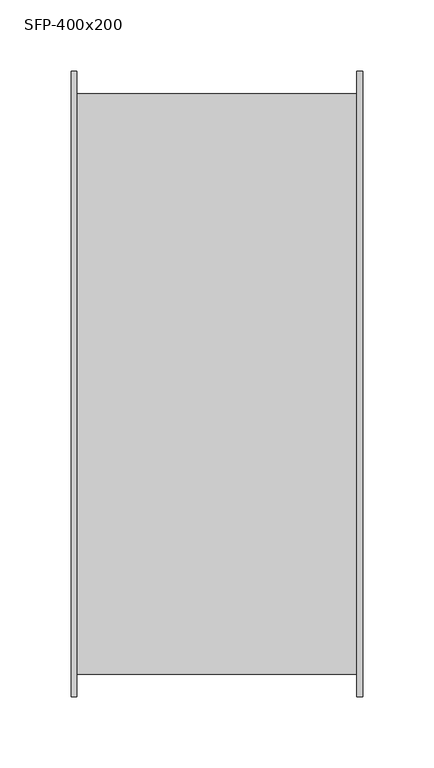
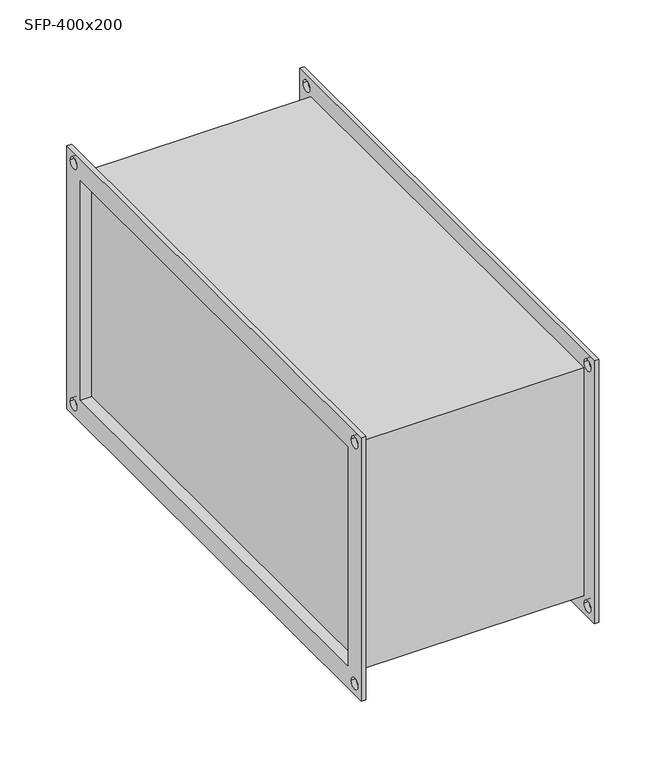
"""IFC4 building model written with IfcOpenShell, lengths in millimetres: damper geometry, СВ_ФильтрКассетный_КанальныйПрямоугольный_200-1000_SFP : SFP-400x200."""

from ifc_helpers import new_model, si_unit, frame, origin, place, context, project, spatial, polyline, circle_curve, outline, extrude, source, transform, mapped, element, save
from ifc_brep_helpers import plane_surface, revolved_surface, advanced_brep


def sfp_400x200_9fdaacf7(model_context):
    return source(origin(), model_context, "Body", "SolidModel", [
        extrude(outline(polyline([(92.5, 200.0), (92.5, -200.0), (-92.5, -200.0), (-92.5, 200.0), (92.5, 200.0)])), frame((0.0, 0.0, -100.0), z_axis=(0.0, 0.0, 1.0), x_axis=(1.0, 0.0, 0.0)), (0.0, 0.0, 1.0), 200.0),
        advanced_brep(
        [(98.5, -204.0, 104.0), (-98.5, -204.0, 104.0), (-98.5, -204.0, -104.0), (98.5, -204.0, -104.0), (-98.5, 204.0, -104.0), (98.5, 204.0, -104.0), (-98.5, 204.0, 104.0), (98.5, 204.0, 104.0), (-102.5, -220.0, 120.0), (-102.5, 220.0, 120.0), (-102.5, 220.0, -120.0), (-102.5, -220.0, -120.0), (-102.5, -200.0, 100.0), (-102.5, -200.0, -100.0), (-102.5, 200.0, -100.0), (-102.5, 200.0, 100.0), (-102.5, 205.0, 110.0), (-102.5, 215.0, 110.0), (-102.5, -215.0, 110.0), (-102.5, -205.0, 110.0), (-102.5, -215.0, -110.0), (-102.5, -205.0, -110.0), (-102.5, 205.0, -110.0), (-102.5, 215.0, -110.0), (-98.5, -220.0, 120.0), (-98.5, -220.0, -120.0), (-98.5, 220.0, -120.0), (-98.5, 220.0, 120.0), (-98.5, 215.0, 110.0), (-98.5, 205.0, 110.0), (-98.5, -205.0, 110.0), (-98.5, -215.0, 110.0), (-98.5, -205.0, -110.0), (-98.5, -215.0, -110.0), (-98.5, 215.0, -110.0), (-98.5, 205.0, -110.0), (98.5, 220.0, 120.0), (98.5, 220.0, -120.0), (98.5, -220.0, -120.0), (98.5, -220.0, 120.0), (98.5, 205.0, 110.0), (98.5, 215.0, 110.0), (98.5, -215.0, 110.0), (98.5, -205.0, 110.0), (98.5, -215.0, -110.0), (98.5, -205.0, -110.0), (98.5, 205.0, -110.0), (98.5, 215.0, -110.0), (102.5, 220.0, 120.0), (102.5, -220.0, 120.0), (102.5, -220.0, -120.0), (102.5, 220.0, -120.0), (102.5, 200.0, 100.0), (102.5, 200.0, -100.0), (102.5, -200.0, -100.0), (102.5, -200.0, 100.0), (102.5, 215.0, 110.0), (102.5, 205.0, 110.0), (102.5, -205.0, 110.0), (102.5, -215.0, 110.0), (102.5, -205.0, -110.0), (102.5, -215.0, -110.0), (102.5, 215.0, -110.0), (102.5, 205.0, -110.0)],
        [
            (0, 1),
            (1, 2),
            (2, 3),
            (3, 0),
            (2, 4),
            (4, 5),
            (5, 3),
            (4, 6),
            (6, 7),
            (7, 5),
            (0, 7),
            (6, 1),
            (8, 9),
            (9, 10),
            (10, 11),
            (11, 8),
            (12, 13),
            (13, 14),
            (14, 15),
            (15, 12),
            (16, 17, circle_curve(frame((-102.5, 210.0, 110.0), z_axis=(1.0, 0.0, 0.0), x_axis=(0.0, 1.0, 0.0)), 5.0)),
            (17, 16, circle_curve(frame((-102.5, 210.0, 110.0), z_axis=(1.0, 0.0, 0.0), x_axis=(0.0, 1.0, 0.0)), 5.0)),
            (18, 19, circle_curve(frame((-102.5, -210.0, 110.0), z_axis=(1.0, 0.0, 0.0), x_axis=(0.0, 1.0, 0.0)), 5.0)),
            (19, 18, circle_curve(frame((-102.5, -210.0, 110.0), z_axis=(1.0, 0.0, 0.0), x_axis=(0.0, 1.0, 0.0)), 5.0)),
            (20, 21, circle_curve(frame((-102.5, -210.0, -110.0), z_axis=(1.0, 0.0, 0.0), x_axis=(0.0, 1.0, 0.0)), 5.0)),
            (21, 20, circle_curve(frame((-102.5, -210.0, -110.0), z_axis=(1.0, 0.0, 0.0), x_axis=(0.0, 1.0, 0.0)), 5.0)),
            (22, 23, circle_curve(frame((-102.5, 210.0, -110.0), z_axis=(1.0, 0.0, 0.0), x_axis=(0.0, 1.0, 0.0)), 5.0)),
            (23, 22, circle_curve(frame((-102.5, 210.0, -110.0), z_axis=(1.0, 0.0, 0.0), x_axis=(0.0, 1.0, 0.0)), 5.0)),
            (24, 25),
            (25, 26),
            (26, 27),
            (27, 24),
            (28, 29, circle_curve(frame((-98.5, 210.0, 110.0), z_axis=(-1.0, 0.0, 0.0), x_axis=(0.0, 1.0, 0.0)), 5.0)),
            (29, 28, circle_curve(frame((-98.5, 210.0, 110.0), z_axis=(-1.0, 0.0, 0.0), x_axis=(0.0, 1.0, 0.0)), 5.0)),
            (30, 31, circle_curve(frame((-98.5, -210.0, 110.0), z_axis=(-1.0, 0.0, 0.0), x_axis=(0.0, 1.0, 0.0)), 5.0)),
            (31, 30, circle_curve(frame((-98.5, -210.0, 110.0), z_axis=(-1.0, 0.0, 0.0), x_axis=(0.0, 1.0, 0.0)), 5.0)),
            (32, 33, circle_curve(frame((-98.5, -210.0, -110.0), z_axis=(-1.0, 0.0, 0.0), x_axis=(0.0, 1.0, 0.0)), 5.0)),
            (33, 32, circle_curve(frame((-98.5, -210.0, -110.0), z_axis=(-1.0, 0.0, 0.0), x_axis=(0.0, 1.0, 0.0)), 5.0)),
            (34, 35, circle_curve(frame((-98.5, 210.0, -110.0), z_axis=(-1.0, 0.0, 0.0), x_axis=(0.0, 1.0, 0.0)), 5.0)),
            (35, 34, circle_curve(frame((-98.5, 210.0, -110.0), z_axis=(-1.0, 0.0, 0.0), x_axis=(0.0, 1.0, 0.0)), 5.0)),
            (11, 25),
            (24, 8),
            (10, 26),
            (9, 27),
            (36, 37),
            (37, 38),
            (38, 39),
            (39, 36),
            (40, 41, circle_curve(frame((98.5, 210.0, 110.0), z_axis=(1.0, 0.0, 0.0), x_axis=(0.0, 1.0, 0.0)), 5.0)),
            (41, 40, circle_curve(frame((98.5, 210.0, 110.0), z_axis=(1.0, 0.0, 0.0), x_axis=(0.0, 1.0, 0.0)), 5.0)),
            (42, 43, circle_curve(frame((98.5, -210.0, 110.0), z_axis=(1.0, 0.0, 0.0), x_axis=(0.0, 1.0, 0.0)), 5.0)),
            (43, 42, circle_curve(frame((98.5, -210.0, 110.0), z_axis=(1.0, 0.0, 0.0), x_axis=(0.0, 1.0, 0.0)), 5.0)),
            (44, 45, circle_curve(frame((98.5, -210.0, -110.0), z_axis=(1.0, 0.0, 0.0), x_axis=(0.0, 1.0, 0.0)), 5.0)),
            (45, 44, circle_curve(frame((98.5, -210.0, -110.0), z_axis=(1.0, 0.0, 0.0), x_axis=(0.0, 1.0, 0.0)), 5.0)),
            (46, 47, circle_curve(frame((98.5, 210.0, -110.0), z_axis=(1.0, 0.0, 0.0), x_axis=(0.0, 1.0, 0.0)), 5.0)),
            (47, 46, circle_curve(frame((98.5, 210.0, -110.0), z_axis=(1.0, 0.0, 0.0), x_axis=(0.0, 1.0, 0.0)), 5.0)),
            (48, 49),
            (49, 50),
            (50, 51),
            (51, 48),
            (52, 53),
            (53, 54),
            (54, 55),
            (55, 52),
            (56, 57, circle_curve(frame((102.5, 210.0, 110.0), z_axis=(-1.0, 0.0, 0.0), x_axis=(0.0, 1.0, 0.0)), 5.0)),
            (57, 56, circle_curve(frame((102.5, 210.0, 110.0), z_axis=(-1.0, 0.0, 0.0), x_axis=(0.0, 1.0, 0.0)), 5.0)),
            (58, 59, circle_curve(frame((102.5, -210.0, 110.0), z_axis=(-1.0, 0.0, 0.0), x_axis=(0.0, 1.0, 0.0)), 5.0)),
            (59, 58, circle_curve(frame((102.5, -210.0, 110.0), z_axis=(-1.0, 0.0, 0.0), x_axis=(0.0, 1.0, 0.0)), 5.0)),
            (60, 61, circle_curve(frame((102.5, -210.0, -110.0), z_axis=(-1.0, 0.0, 0.0), x_axis=(0.0, 1.0, 0.0)), 5.0)),
            (61, 60, circle_curve(frame((102.5, -210.0, -110.0), z_axis=(-1.0, 0.0, 0.0), x_axis=(0.0, 1.0, 0.0)), 5.0)),
            (62, 63, circle_curve(frame((102.5, 210.0, -110.0), z_axis=(-1.0, 0.0, 0.0), x_axis=(0.0, 1.0, 0.0)), 5.0)),
            (63, 62, circle_curve(frame((102.5, 210.0, -110.0), z_axis=(-1.0, 0.0, 0.0), x_axis=(0.0, 1.0, 0.0)), 5.0)),
            (39, 49),
            (48, 36),
            (38, 50),
            (37, 51),
            (15, 52),
            (55, 12),
            (14, 53),
            (13, 54),
            (16, 29),
            (28, 17),
            (40, 57),
            (56, 41),
            (18, 31),
            (30, 19),
            (42, 59),
            (58, 43),
            (20, 33),
            (32, 21),
            (44, 61),
            (60, 45),
            (22, 35),
            (34, 23),
            (46, 63),
            (62, 47),
        ],
        [
            plane_surface(frame((98.5, -204.0, 104.0), z_axis=(0.0, -1.0, 0.0), x_axis=(-1.0, 0.0, 0.0))),
            plane_surface(frame((98.5, -204.0, -104.0), z_axis=(0.0, 0.0, -1.0), x_axis=(-1.0, 0.0, 0.0))),
            plane_surface(frame((98.5, 204.0, -104.0), z_axis=(0.0, 1.0, 0.0), x_axis=(-1.0, 0.0, 0.0))),
            plane_surface(frame((98.5, 204.0, 104.0), z_axis=(0.0, 0.0, 1.0), x_axis=(-1.0, 0.0, 0.0))),
            plane_surface(frame((-102.5, -220.0, 120.0), z_axis=(-1.0, 0.0, 0.0), x_axis=(0.0, 0.0, 1.0))),
            plane_surface(frame((-98.5, -220.0, 120.0), z_axis=(1.0, 0.0, 0.0), x_axis=(0.0, 0.0, -1.0))),
            plane_surface(frame((-98.5, -220.0, 120.0), z_axis=(0.0, -1.0, 0.0), x_axis=(-1.0, 0.0, 0.0))),
            plane_surface(frame((-98.5, -220.0, -120.0), z_axis=(0.0, 0.0, -1.0), x_axis=(-1.0, 0.0, 0.0))),
            plane_surface(frame((-98.5, 220.0, -120.0), z_axis=(0.0, 1.0, 0.0), x_axis=(-1.0, 0.0, 0.0))),
            plane_surface(frame((-98.5, 220.0, 120.0), z_axis=(0.0, 0.0, 1.0), x_axis=(-1.0, 0.0, 0.0))),
            plane_surface(frame((98.5, 200.0, -100.0), z_axis=(-1.0, 0.0, 0.0), x_axis=(0.0, 0.0, 1.0))),
            plane_surface(frame((102.5, 200.0, -100.0), z_axis=(1.0, 0.0, 0.0), x_axis=(0.0, 0.0, -1.0))),
            plane_surface(frame((102.5, 220.0, 120.0), z_axis=(0.0, 0.0, 1.0), x_axis=(-1.0, 0.0, 0.0))),
            plane_surface(frame((102.5, -220.0, 120.0), z_axis=(0.0, -1.0, 0.0), x_axis=(-1.0, 0.0, 0.0))),
            plane_surface(frame((102.5, -220.0, -120.0), z_axis=(0.0, 0.0, -1.0), x_axis=(-1.0, 0.0, 0.0))),
            plane_surface(frame((102.5, 220.0, -120.0), z_axis=(0.0, 1.0, 0.0), x_axis=(-1.0, 0.0, 0.0))),
            plane_surface(frame((-98.5, -200.0, 100.0), z_axis=(0.0, 0.0, -1.0), x_axis=(-1.0, 0.0, 0.0))),
            plane_surface(frame((-98.5, 200.0, 100.0), z_axis=(0.0, -1.0, 0.0), x_axis=(-1.0, 0.0, 0.0))),
            plane_surface(frame((-98.5, 200.0, -100.0), z_axis=(0.0, 0.0, 1.0), x_axis=(-1.0, 0.0, 0.0))),
            plane_surface(frame((-98.5, -200.0, -100.0), z_axis=(0.0, 1.0, 0.0), x_axis=(-1.0, 0.0, 0.0))),
            revolved_surface(polyline([(-98.5, 215.0, 110.0), (-102.5, 215.0, 110.0)]), (-102.5, 210.0, 110.0), (1.0, 0.0, 0.0)),
            revolved_surface(polyline([(102.5, 215.0, 110.0), (98.5, 215.0, 110.0)]), (-102.5, 210.0, 110.0), (1.0, 0.0, 0.0)),
            revolved_surface(polyline([(-98.5, -205.0, 110.0), (-102.5, -205.0, 110.0)]), (0.0, -210.0, 110.0), (1.0, 0.0, 0.0)),
            revolved_surface(polyline([(102.5, -205.0, 110.0), (98.5, -205.0, 110.0)]), (0.0, -210.0, 110.0), (1.0, 0.0, 0.0)),
            revolved_surface(polyline([(-98.5, -205.0, -110.0), (-102.5, -205.0, -110.0)]), (0.0, -210.0, -110.0), (1.0, 0.0, 0.0)),
            revolved_surface(polyline([(102.5, -205.0, -110.0), (98.5, -205.0, -110.0)]), (0.0, -210.0, -110.0), (1.0, 0.0, 0.0)),
            revolved_surface(polyline([(-98.5, 215.0, -110.0), (-102.5, 215.0, -110.0)]), (0.0, 210.0, -110.0), (1.0, 0.0, 0.0)),
            revolved_surface(polyline([(102.5, 215.0, -110.0), (98.5, 215.0, -110.0)]), (0.0, 210.0, -110.0), (1.0, 0.0, 0.0)),
        ],
        [
            (0, [[1, 2, 3, 4]]),
            (1, [[-3, 5, 6, 7]]),
            (2, [[-6, 8, 9, 10]]),
            (3, [[-1, 11, -9, 12]]),
            (4, [[13, 14, 15, 16], [17, 18, 19, 20], [21, 22], [23, 24], [25, 26], [27, 28]]),
            (5, [[29, 30, 31, 32], [-2, -12, -8, -5], [33, 34], [35, 36], [37, 38], [39, 40]]),
            (6, [[-16, 41, -29, 42]]),
            (7, [[-15, 43, -30, -41]]),
            (8, [[-14, 44, -31, -43]]),
            (9, [[-13, -42, -32, -44]]),
            (10, [[45, 46, 47, 48], [-4, -7, -10, -11], [49, 50], [51, 52], [53, 54], [55, 56]]),
            (11, [[57, 58, 59, 60], [61, 62, 63, 64], [65, 66], [67, 68], [69, 70], [71, 72]]),
            (12, [[-48, 73, -57, 74]]),
            (13, [[-47, 75, -58, -73]]),
            (14, [[-46, 76, -59, -75]]),
            (15, [[-45, -74, -60, -76]]),
            (16, [[-20, 77, -64, 78]]),
            (17, [[-77, -19, 79, -61]]),
            (18, [[-79, -18, 80, -62]]),
            (19, [[-80, -17, -78, -63]]),
            (20, [[81, -33, 82, -21]]),
            (21, [[83, -65, 84, -49]]),
            (20, [[-81, -22, -82, -34]]),
            (21, [[-83, -50, -84, -66]]),
            (22, [[85, -35, 86, -23]]),
            (23, [[87, -67, 88, -51]]),
            (22, [[-85, -24, -86, -36]]),
            (23, [[-87, -52, -88, -68]]),
            (24, [[89, -37, 90, -25]]),
            (25, [[91, -69, 92, -53]]),
            (24, [[-89, -26, -90, -38]]),
            (25, [[-91, -54, -92, -70]]),
            (26, [[93, -39, 94, -27]]),
            (27, [[95, -71, 96, -55]]),
            (26, [[-93, -28, -94, -40]]),
            (27, [[-95, -56, -96, -72]]),
        ],
    ),
    ])


if __name__ == "__main__":
    model = new_model("IFC4")
    model_context = context("Model", 3, world=origin())
    ifc_project = project(units=[si_unit("LENGTHUNIT", "METRE", prefix="MILLI")], contexts=[model_context])
    site = spatial("IfcSite", under=ifc_project)
    building = spatial("IfcBuilding", under=site)
    placement = place(None, origin())
    sfp_400x200_shape = sfp_400x200_9fdaacf7(model_context)
    element("IfcDamper", 1, ObjectType="СВ_ФильтрКассетный_КанальныйПрямоугольный_200-1000_SFP : SFP-400x200", at=placement, inside=building, context=model_context, shape_type="MappedRepresentation", body=[
        mapped(sfp_400x200_shape, transform((0.0, 0.0, 0.0), x_axis=(1.0, 0.0, 0.0), y_axis=(0.0, 1.0, 0.0), z_axis=(0.0, 0.0, 1.0))),
    ])
    save(model, "model.ifc")
